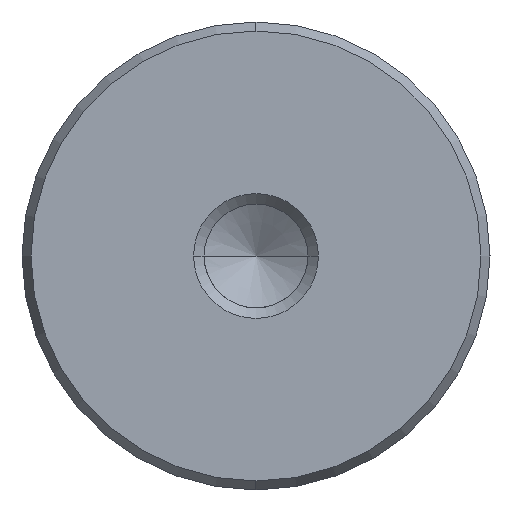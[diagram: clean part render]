
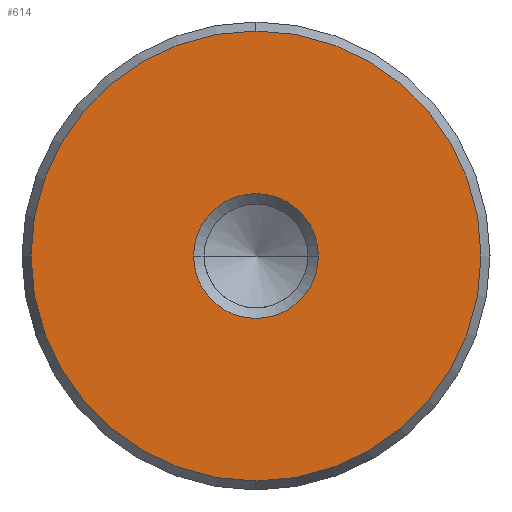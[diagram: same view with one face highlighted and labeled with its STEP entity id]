
A CAD part, left-side view. The second image highlights one B-rep face of the part: STEP entity #614.
In plain terms, the highlighted planar face has unit normal (-1, 0, 0).
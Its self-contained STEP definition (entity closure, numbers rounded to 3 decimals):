
#528=CARTESIAN_POINT('Vertex',(0.,0.,-14.423)) ;
#531=CARTESIAN_POINT('Axis2P3D Location',(0.,0.,0.)) ;
#535=CARTESIAN_POINT('Vertex',(0.,14.423,0.)) ;
#538=CARTESIAN_POINT('Axis2P3D Location',(0.,0.,0.)) ;
#542=CARTESIAN_POINT('Vertex',(0.,0.,14.423)) ;
#564=CARTESIAN_POINT('Axis2P3D Location',(0.,0.,0.)) ;
#568=CARTESIAN_POINT('Vertex',(0.,-14.423,0.)) ;
#571=CARTESIAN_POINT('Axis2P3D Location',(0.,0.,0.)) ;
#585=CARTESIAN_POINT('Axis2P3D Location',(0.,0.,0.)) ;
#596=CARTESIAN_POINT('Axis2P3D Location',(0.,0.,0.)) ;
#600=CARTESIAN_POINT('Vertex',(0.,4.,0.)) ;
#602=CARTESIAN_POINT('Vertex',(0.,-4.,0.)) ;
#605=CARTESIAN_POINT('Axis2P3D Location',(0.,0.,0.)) ;
#532=DIRECTION('Axis2P3D Direction',(1.,0.,-0.)) ;
#539=DIRECTION('Axis2P3D Direction',(1.,0.,-0.)) ;
#565=DIRECTION('Axis2P3D Direction',(1.,0.,-0.)) ;
#572=DIRECTION('Axis2P3D Direction',(1.,0.,-0.)) ;
#586=DIRECTION('Axis2P3D Direction',(1.,0.,-0.)) ;
#587=DIRECTION('Axis2P3D XDirection',(-0.,0.,-1.)) ;
#597=DIRECTION('Axis2P3D Direction',(1.,0.,-0.)) ;
#606=DIRECTION('Axis2P3D Direction',(1.,0.,-0.)) ;
#533=AXIS2_PLACEMENT_3D('Circle Axis2P3D',#531,#532,$) ;
#540=AXIS2_PLACEMENT_3D('Circle Axis2P3D',#538,#539,$) ;
#566=AXIS2_PLACEMENT_3D('Circle Axis2P3D',#564,#565,$) ;
#573=AXIS2_PLACEMENT_3D('Circle Axis2P3D',#571,#572,$) ;
#588=AXIS2_PLACEMENT_3D('Plane Axis2P3D',#585,#586,#587) ;
#598=AXIS2_PLACEMENT_3D('Circle Axis2P3D',#596,#597,$) ;
#607=AXIS2_PLACEMENT_3D('Circle Axis2P3D',#605,#606,$) ;
#591=ORIENTED_EDGE('',*,*,#537,.F.) ;
#592=ORIENTED_EDGE('',*,*,#575,.F.) ;
#593=ORIENTED_EDGE('',*,*,#570,.F.) ;
#594=ORIENTED_EDGE('',*,*,#544,.F.) ;
#611=ORIENTED_EDGE('',*,*,#604,.T.) ;
#612=ORIENTED_EDGE('',*,*,#609,.T.) ;
#613=FACE_BOUND('',#610,.T.) ;
#614=ADVANCED_FACE('720-30x200',(#595,#613),#589,.F.) ;
#534=CIRCLE('generated circle',#533,14.423) ;
#541=CIRCLE('generated circle',#540,14.423) ;
#567=CIRCLE('generated circle',#566,14.423) ;
#574=CIRCLE('generated circle',#573,14.423) ;
#599=CIRCLE('generated circle',#598,4.) ;
#608=CIRCLE('generated circle',#607,4.) ;
#537=EDGE_CURVE('',#529,#536,#534,.T.) ;
#544=EDGE_CURVE('',#536,#543,#541,.T.) ;
#570=EDGE_CURVE('',#543,#569,#567,.T.) ;
#575=EDGE_CURVE('',#569,#529,#574,.T.) ;
#604=EDGE_CURVE('',#601,#603,#599,.T.) ;
#609=EDGE_CURVE('',#603,#601,#608,.T.) ;
#590=EDGE_LOOP('',(#591,#592,#593,#594)) ;
#610=EDGE_LOOP('',(#611,#612)) ;
#595=FACE_OUTER_BOUND('',#590,.T.) ;
#589=PLANE('Plane',#588) ;
#529=VERTEX_POINT('',#528) ;
#536=VERTEX_POINT('',#535) ;
#543=VERTEX_POINT('',#542) ;
#569=VERTEX_POINT('',#568) ;
#601=VERTEX_POINT('',#600) ;
#603=VERTEX_POINT('',#602) ;
